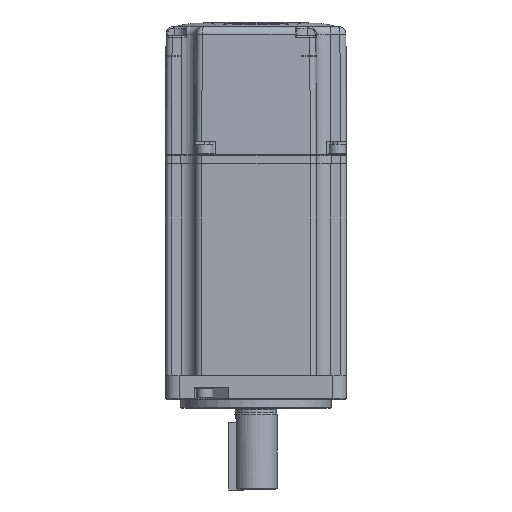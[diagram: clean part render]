
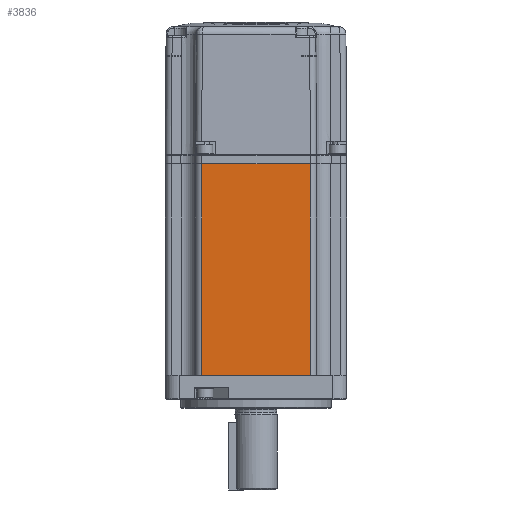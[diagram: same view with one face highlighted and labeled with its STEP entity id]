
A CAD part, front view. The second image highlights one B-rep face of the part: STEP entity #3836.
In plain terms, the highlighted planar face has unit normal (0, -1, 0).
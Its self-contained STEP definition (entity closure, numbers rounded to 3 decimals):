
#682 = EDGE_LOOP ( 'NONE', ( #40972, #11877, #11977, #40970 ) ) ;
#3351 = FACE_OUTER_BOUND ( 'NONE', #682, .T. ) ;
#3836 = ADVANCED_FACE ( 'NONE', ( #3351 ), #8301, .F. ) ;
#3875 = CARTESIAN_POINT ( 'NONE',  ( -21.642, -48.451, 58.462 ) ) ;
#3974 = CARTESIAN_POINT ( 'NONE',  ( 14.358, -48.451, 58.462 ) ) ;
#5467 = VERTEX_POINT ( 'NONE', #14838 ) ;
#5514 = VERTEX_POINT ( 'NONE', #14737 ) ;
#5658 = VERTEX_POINT ( 'NONE', #3974 ) ;
#5729 = VERTEX_POINT ( 'NONE', #3875 ) ;
#7547 = CARTESIAN_POINT ( 'NONE',  ( -23.642, -48.451, 59.712 ) ) ;
#7729 = DIRECTION ( 'NONE',  ( -1., 0., 0. ) ) ;
#7763 = DIRECTION ( 'NONE',  ( 0., 1., 0. ) ) ;
#8301 = PLANE ( 'NONE',  #19862 ) ;
#10658 = EDGE_CURVE ( 'NONE', #5467, #5658, #22580, .T. ) ;
#10714 = EDGE_CURVE ( 'NONE', #5729, #5658, #22679, .T. ) ;
#10719 = EDGE_CURVE ( 'NONE', #5729, #5514, #22693, .T. ) ;
#10833 = EDGE_CURVE ( 'NONE', #5467, #5514, #22874, .T. ) ;
#11877 = ORIENTED_EDGE ( 'NONE', *, *, #10658, .T. ) ;
#11977 = ORIENTED_EDGE ( 'NONE', *, *, #10714, .F. ) ;
#13308 = CARTESIAN_POINT ( 'NONE',  ( 14.358, -48.451, 59.712 ) ) ;
#13311 = DIRECTION ( 'NONE',  ( 0., 0., 1. ) ) ;
#13623 = DIRECTION ( 'NONE',  ( 1., 0., 0. ) ) ;
#13638 = CARTESIAN_POINT ( 'NONE',  ( -33.642, -48.451, 58.462 ) ) ;
#13652 = DIRECTION ( 'NONE',  ( 0., 0., -1. ) ) ;
#13661 = CARTESIAN_POINT ( 'NONE',  ( -21.642, -48.451, 59.712 ) ) ;
#14271 = CARTESIAN_POINT ( 'NONE',  ( 26.358, -48.451, -11.538 ) ) ;
#14283 = DIRECTION ( 'NONE',  ( -1., 0., 0. ) ) ;
#14737 = CARTESIAN_POINT ( 'NONE',  ( -21.642, -48.451, -11.538 ) ) ;
#14838 = CARTESIAN_POINT ( 'NONE',  ( 14.358, -48.451, -11.538 ) ) ;
#19862 = AXIS2_PLACEMENT_3D ( 'NONE', #7547, #7763, #7729 ) ;
#22580 = LINE ( 'NONE', #13308, #22583 ) ;
#22583 = VECTOR ( 'NONE', #13311, 1000. ) ;
#22679 = LINE ( 'NONE', #13638, #22687 ) ;
#22687 = VECTOR ( 'NONE', #13623, 1000. ) ;
#22693 = LINE ( 'NONE', #13661, #22695 ) ;
#22695 = VECTOR ( 'NONE', #13652, 1000. ) ;
#22874 = LINE ( 'NONE', #14271, #22876 ) ;
#22876 = VECTOR ( 'NONE', #14283, 1000. ) ;
#40970 = ORIENTED_EDGE ( 'NONE', *, *, #10719, .T. ) ;
#40972 = ORIENTED_EDGE ( 'NONE', *, *, #10833, .F. ) ;
